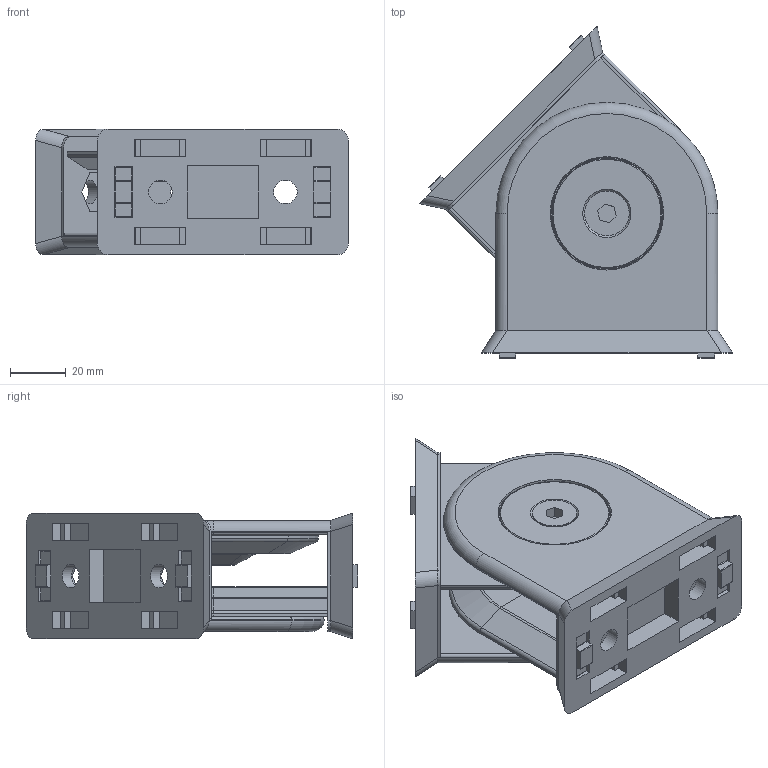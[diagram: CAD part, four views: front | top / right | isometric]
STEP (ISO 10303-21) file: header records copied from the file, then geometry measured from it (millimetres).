
FILE_DESCRIPTION(/* description */ ('STEP AP203'),/* implementation_level */ '2;1');
FILE_NAME(/* name */ '093GA4590AN(-45)',/* time_stamp */ '2026-07-16T13:59:05+02:00',/* author */ ('License CC BY-ND 4.0'),/* organization */ ('CADENAS'),/* preprocessor_version */ 'ST-DEVELOPER v20',/* originating_system */ 'PARTsolutions',/* authorisation */ ' ');
FILE_SCHEMA (('CONFIG_CONTROL_DESIGN'));
Length unit declared in the file: millimetre
Products named in the file (6): 093GA4590AN(-45); 093G4590AN_b2; 093G4590AN_b5; 093G4590AN_b3; 093G4590AN_b4; 093G4590AN_b1
Assembly tree (12 placements, depth 2):
  093GA4590AN(-45)
    093G4590AN_b2  x2
    093G4590AN_b5  x4
    093G4590AN_b3  x2
    093G4590AN_b4  x2
    093G4590AN_b1  x2
Bounding box: 112.18 x 118.98 x 45 mm (x, y, z)
Volume: 164806.8 mm3; surface area: 89263.7 mm2
Topology: 12 solids, 12 shells, 648 faces, 1642 edges, 1070 vertices
Faces by surface type: plane 382, cylinder 186, cone 38, torus 34, bspline 8
Full cylindrical faces by diameter (mm): 2 x4, 6.647 x2, 8 x2, 8.4 x4, 9 x2, 16 x2, 20 x2, 28 x2, 40 x2, 69.6 x2, 70 x2
Entity records: 8867 total; most frequent: CARTESIAN_POINT 1607, DIRECTION 1521, ORIENTED_EDGE 1404, EDGE_CURVE 702, AXIS2_PLACEMENT_3D 538, VERTEX_POINT 476, LINE 445, VECTOR 445
